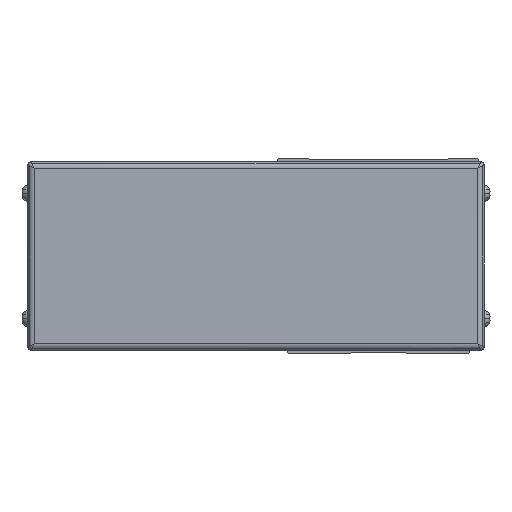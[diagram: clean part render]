
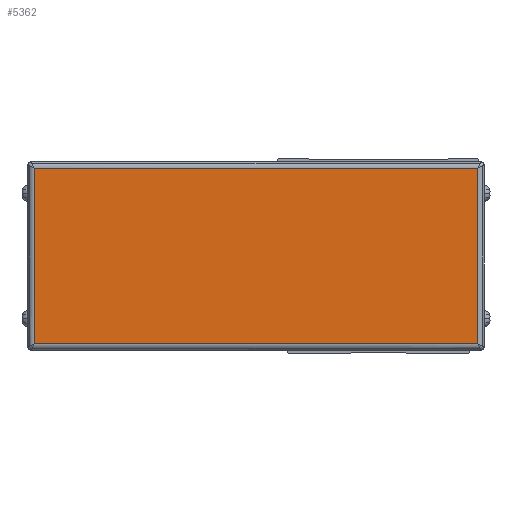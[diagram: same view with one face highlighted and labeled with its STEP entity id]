
A CAD part, front view. The second image highlights one B-rep face of the part: STEP entity #5362.
In plain terms, the highlighted planar face has unit normal (0, -1, 0).
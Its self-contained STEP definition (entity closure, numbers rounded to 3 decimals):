
#5362=ADVANCED_FACE('',(#11432),#11433,.F.);
#11432=FACE_OUTER_BOUND('',#18963,.T.);
#11433=PLANE('',#18964);
#18963=EDGE_LOOP('',(#33920,#33921,#33922,#33923));
#18964=AXIS2_PLACEMENT_3D('',#33924,#33925,#33926);
#33920=ORIENTED_EDGE('',*,*,#48431,.T.);
#33921=ORIENTED_EDGE('',*,*,#48432,.T.);
#33922=ORIENTED_EDGE('',*,*,#48433,.T.);
#33923=ORIENTED_EDGE('',*,*,#43985,.T.);
#33924=CARTESIAN_POINT('',(261.,131.,-4.));
#33925=DIRECTION('',(0.,1.0,0.));
#33926=DIRECTION('',(0.,0.,1.0));
#43985=EDGE_CURVE('',#52989,#52987,#52990,.T.);
#48431=EDGE_CURVE('',#52987,#59755,#59756,.T.);
#48432=EDGE_CURVE('',#59755,#59757,#59758,.T.);
#48433=EDGE_CURVE('',#59757,#52989,#59759,.T.);
#52987=VERTEX_POINT('',#65618);
#52989=VERTEX_POINT('',#65620);
#52990=LINE('',#65621,#65622);
#59755=VERTEX_POINT('',#75239);
#59756=LINE('',#75240,#75241);
#59757=VERTEX_POINT('',#75242);
#59758=LINE('',#75243,#75244);
#59759=LINE('',#75245,#75246);
#65618=CARTESIAN_POINT('',(331.7,131.,24.));
#65620=CARTESIAN_POINT('',(331.7,131.,-32.));
#65621=CARTESIAN_POINT('',(331.7,131.,-4.));
#65622=VECTOR('',#80299,10.0);
#75239=CARTESIAN_POINT('',(190.3,131.,24.));
#75240=CARTESIAN_POINT('',(261.,131.,24.));
#75241=VECTOR('',#85555,10.0);
#75242=CARTESIAN_POINT('',(190.3,131.,-32.));
#75243=CARTESIAN_POINT('',(190.3,131.,-4.));
#75244=VECTOR('',#85556,10.0);
#75245=CARTESIAN_POINT('',(261.,131.,-32.));
#75246=VECTOR('',#85557,10.0);
#80299=DIRECTION('',(0.,0.,1.0));
#85555=DIRECTION('',(-1.0,0.,0.));
#85556=DIRECTION('',(0.,0.,-1.0));
#85557=DIRECTION('',(1.0,0.,0.));
